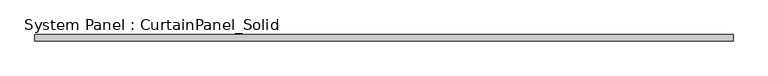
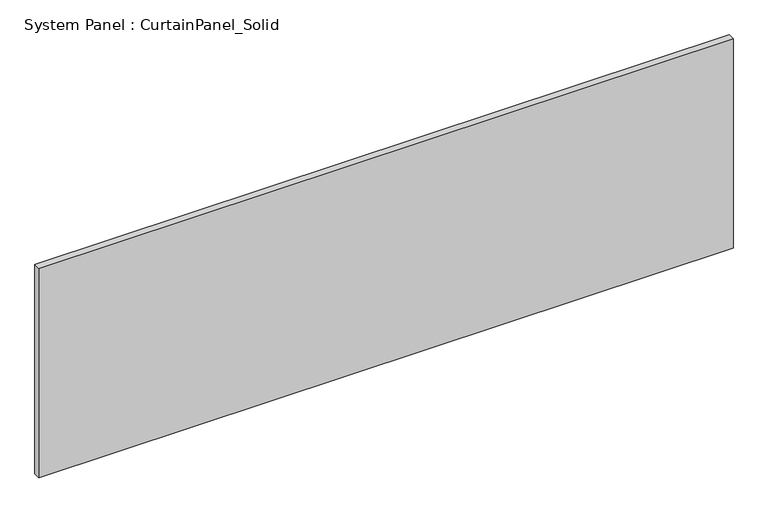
"""IFC4 building model written with IfcOpenShell, lengths in millimetres: plate geometry, System Panel : CurtainPanel_Solid."""

import ifcopenshell
import ifcopenshell.guid

model = None  # the IFC model being written
_history = None  # IfcOwnerHistory: only IFC2X3 demands one
_inside = {}  # id of a spatial element -> (the spatial element, [elements in it])
_under = {}  # id of a project, library or spatial element -> (it, [spatial elements below it])
_declared = {}  # id of a project -> (the project, [libraries it declares])
_typed = {}  # id of a type object -> (the type object, [elements of that type])
_made_of = {}  # id of a material, layer set ... -> (it, [elements and type objects made of it])


def new_model(schema):
    """Start an empty IFC model of exactly this schema.

    Asked for "IFC4X3", IfcOpenShell would pick the latest addendum, in which some entities
    have other attributes; the version numbers below select the first issue.
    IFC2X3 requires an IfcOwnerHistory on every rooted entity: one is made here for all.
    """
    global model, _history
    if schema == "IFC4X3":
        model = ifcopenshell.file(schema_version=(4, 3, 0, 0))
    else:
        model = ifcopenshell.file(schema=schema)
    _inside.clear()
    _under.clear()
    _declared.clear()
    _typed.clear()
    _made_of.clear()
    _history = None
    if model.schema == "IFC2X3":
        org = make("IfcOrganization", Name="unknown")
        user = make(
            "IfcPersonAndOrganization",
            ThePerson=make("IfcPerson", FamilyName="unknown"),
            TheOrganization=org,
        )
        app = make(
            "IfcApplication",
            ApplicationDeveloper=org,
            Version="unknown",
            ApplicationFullName="unknown",
            ApplicationIdentifier="unknown",
        )
        _history = make(
            "IfcOwnerHistory",
            OwningUser=user,
            OwningApplication=app,
            ChangeAction="ADDED",
            CreationDate=0,
        )
    return model


def make(cls, **values):
    """One entity of the class cls with the attributes given. An attribute that is None is left unset."""
    return model.create_entity(
        cls, **{name: value for name, value in values.items() if value is not None}
    )


def rooted(cls, **values):
    """An entity with a GlobalId (a new one), such as an element, a storey or a relation."""
    return make(cls, GlobalId=ifcopenshell.guid.new(), OwnerHistory=_history, **values)


def si_unit(unit_type, name, prefix=None):
    """IfcSIUnit, for example si_unit("LENGTHUNIT", "METRE", prefix="MILLI")."""
    return make("IfcSIUnit", UnitType=unit_type, Prefix=prefix, Name=name)


def assignment(units):
    """IfcUnitAssignment: the units of a project."""
    return None if units is None else make("IfcUnitAssignment", Units=units)


def point(xyz):
    """IfcCartesianPoint."""
    return None if xyz is None else make("IfcCartesianPoint", Coordinates=xyz)


def direction(xyz):
    """IfcDirection."""
    return None if xyz is None else make("IfcDirection", DirectionRatios=xyz)


def frame(location, z_axis=None, x_axis=None):
    """IfcAxis2Placement3D, a coordinate frame: its origin and axes. An axis left out is left unset."""
    return make(
        "IfcAxis2Placement3D",
        Location=point(location),
        Axis=direction(z_axis),
        RefDirection=direction(x_axis),
    )


def origin():
    """The frame at (0, 0, 0) with its axes left unset."""
    return frame((0.0, 0.0, 0.0))


def origin_with_axes():
    """The frame at (0, 0, 0) with the z axis (0, 0, 1) and the x axis (1, 0, 0) written out."""
    return frame((0.0, 0.0, 0.0), z_axis=(0.0, 0.0, 1.0), x_axis=(1.0, 0.0, 0.0))


def place(relative_to, where):
    """IfcLocalPlacement: puts the frame where relative to a parent placement (None: the world)."""
    return make(
        "IfcLocalPlacement", PlacementRelTo=relative_to, RelativePlacement=where
    )


def context(
    kind, dimensions, precision=None, world=None, true_north=None, identifier=None
):
    """IfcGeometricRepresentationContext, for example the 3D "Model" context."""
    return make(
        "IfcGeometricRepresentationContext",
        ContextIdentifier=identifier,
        ContextType=kind,
        CoordinateSpaceDimension=dimensions,
        Precision=precision,
        WorldCoordinateSystem=world,
        TrueNorth=true_north,
    )


def project(units=None, contexts=None):
    """IfcProject with its units and contexts."""
    return rooted(
        "IfcProject",
        Name="project",
        RepresentationContexts=contexts,
        UnitsInContext=assignment(units),
    )


def spatial(cls, under=None, at=None, **own):
    """A site, building, storey or space (cls), placed at a placement, below another one or the project."""
    s = rooted(cls, ObjectPlacement=at, **own)
    if under is not None:
        _under.setdefault(under.id(), (under, []))[1].append(s)
    return s


def polyline(points):
    """IfcPolyline through the points."""
    return make("IfcPolyline", Points=[point(p) for p in points])


def outline(outer, holes=None, kind="AREA"):
    """IfcArbitraryClosedProfileDef: a profile drawn as a closed curve; with holes, ...WithVoids."""
    if holes is None:
        return make("IfcArbitraryClosedProfileDef", ProfileType=kind, OuterCurve=outer)
    return make(
        "IfcArbitraryProfileDefWithVoids",
        ProfileType=kind,
        OuterCurve=outer,
        InnerCurves=holes,
    )


def extrude(swept, where, along, depth):
    """IfcExtrudedAreaSolid: the profile swept, set in the frame where, extruded along a direction by depth."""
    return make(
        "IfcExtrudedAreaSolid",
        SweptArea=swept,
        Position=where,
        ExtrudedDirection=direction(along),
        Depth=depth,
    )


def shape(context_of_items, identifier, shape_type, items):
    """IfcShapeRepresentation: the items that make up one representation, for example the "Body"."""
    return make(
        "IfcShapeRepresentation",
        ContextOfItems=context_of_items,
        RepresentationIdentifier=identifier,
        RepresentationType=shape_type,
        Items=items,
    )


def source(mapping_origin, context_of_items, identifier, shape_type, items):
    """IfcRepresentationMap: a shape defined once, which mapped items show again and again."""
    return make(
        "IfcRepresentationMap",
        MappingOrigin=mapping_origin,
        MappedRepresentation=shape(context_of_items, identifier, shape_type, items),
    )


def transform(
    local_origin,
    x_axis=None,
    y_axis=None,
    z_axis=None,
    scale=None,
    scale2=None,
    scale3=None,
    uniform=True,
):
    """IfcCartesianTransformationOperator3D, or its non-uniform kind. x_axis, y_axis, z_axis: its Axis1, 2, 3."""
    if uniform:
        return make(
            "IfcCartesianTransformationOperator3D",
            Axis1=direction(x_axis),
            Axis2=direction(y_axis),
            LocalOrigin=point(local_origin),
            Scale=scale,
            Axis3=direction(z_axis),
        )
    return make(
        "IfcCartesianTransformationOperator3DnonUniform",
        Axis1=direction(x_axis),
        Axis2=direction(y_axis),
        LocalOrigin=point(local_origin),
        Scale=scale,
        Axis3=direction(z_axis),
        Scale2=scale2,
        Scale3=scale3,
    )


def mapped(mapping_source, mapping_target):
    """IfcMappedItem: shows the shape of a source again, moved by a transform."""
    return make(
        "IfcMappedItem", MappingSource=mapping_source, MappingTarget=mapping_target
    )


def made_of(thing, what):
    """Note that an element or type object is made of a material, layer set ...; save() writes the relation."""
    if what is not None:
        _made_of.setdefault(what.id(), (what, []))[1].append(thing)
    return thing


def element(
    cls,
    number,
    at=None,
    inside=None,
    cuts=None,
    type_object=None,
    material=None,
    context=None,
    identifier="Body",
    shape_type=None,
    held_by="IfcProductDefinitionShape",
    body=None,
    shapes=None,
    **own,
):
    """One element of the class cls, such as IfcWall. Its Tag is "e" and its number.

    at: its placement. inside: the storey or other place that contains it. cuts: it is an
    opening in that element (IfcRelVoidsElement). A single representation is given by context,
    identifier, shape_type and body (its items); several are given by shapes. held_by: the class
    of the entity that holds the representations. save() writes the other relations.
    """
    e = rooted(cls, Tag="e%d" % number, ObjectPlacement=at, **own)
    if body is not None:
        shapes = [shape(context, identifier, shape_type, body)]
    if shapes is not None:
        e.Representation = make(held_by, Representations=shapes)
    if inside is not None:
        _inside.setdefault(inside.id(), (inside, []))[1].append(e)
    if cuts is not None:
        rooted(
            "IfcRelVoidsElement", RelatingBuildingElement=cuts, RelatedOpeningElement=e
        )
    if type_object is not None:
        _typed.setdefault(type_object.id(), (type_object, []))[1].append(e)
    return made_of(e, material)


def aggregate(whole, parts):
    """IfcRelAggregates: a whole, such as a stair, and the parts it consists of."""
    return rooted("IfcRelAggregates", RelatingObject=whole, RelatedObjects=parts)


def save(model, path):
    """Write the relations noted so far, then the file.

    IfcRelAggregates (storeys below a building ...), IfcRelContainedInSpatialStructure (elements
    in a storey), IfcRelDefinesByType, IfcRelAssociatesMaterial and IfcRelDeclares: one each for
    every whole, place, type object, material and project.
    """
    for whole, parts in _under.values():
        aggregate(whole, parts)
    for where, things in _inside.values():
        rooted(
            "IfcRelContainedInSpatialStructure",
            RelatedElements=things,
            RelatingStructure=where,
        )
    for kind, things in _typed.values():
        rooted("IfcRelDefinesByType", RelatedObjects=things, RelatingType=kind)
    for what, things in _made_of.values():
        rooted("IfcRelAssociatesMaterial", RelatedObjects=things, RelatingMaterial=what)
    for by, libraries in _declared.values():
        rooted("IfcRelDeclares", RelatingContext=by, RelatedDefinitions=libraries)
    model.write(path)


def system_panel_curtainpanel_solid_5de49f81(model_context):
    return source(origin(), model_context, "Body", "SweptSolid", [
        extrude(outline(polyline([(1332.3000001, -12.5), (-1332.3000001, -12.5), (-1332.3000001, 12.5), (1332.3000001, 12.5), (1332.3000001, -12.5)])), origin_with_axes(), (0.0, 0.0, 1.0), 850.0),
    ])


if __name__ == "__main__":
    model = new_model("IFC4")
    model_context = context("Model", 3, world=origin())
    ifc_project = project(units=[si_unit("LENGTHUNIT", "METRE", prefix="MILLI")], contexts=[model_context])
    site = spatial("IfcSite", under=ifc_project)
    building = spatial("IfcBuilding", under=site)
    placement = place(None, origin())
    system_panel_curtainpanel_solid_shape = system_panel_curtainpanel_solid_5de49f81(model_context)
    element("IfcPlate", 1, ObjectType="System Panel : CurtainPanel_Solid", at=placement, inside=building, context=model_context, shape_type="MappedRepresentation", body=[
        mapped(system_panel_curtainpanel_solid_shape, transform((0.0, 0.0, 0.0), x_axis=(1.0, 0.0, 0.0), y_axis=(0.0, 1.0, 0.0), z_axis=(0.0, 0.0, 1.0))),
    ])
    save(model, "model.ifc")
